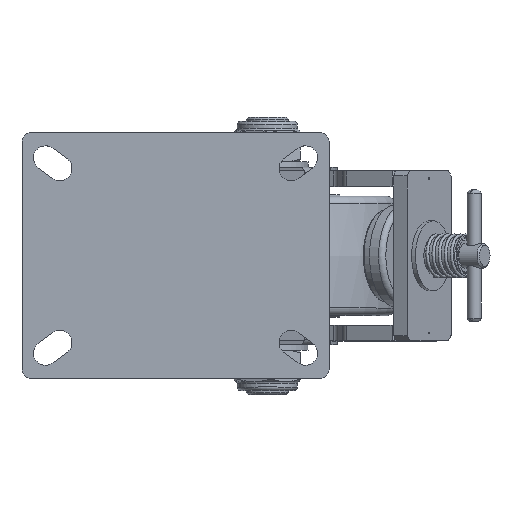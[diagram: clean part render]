
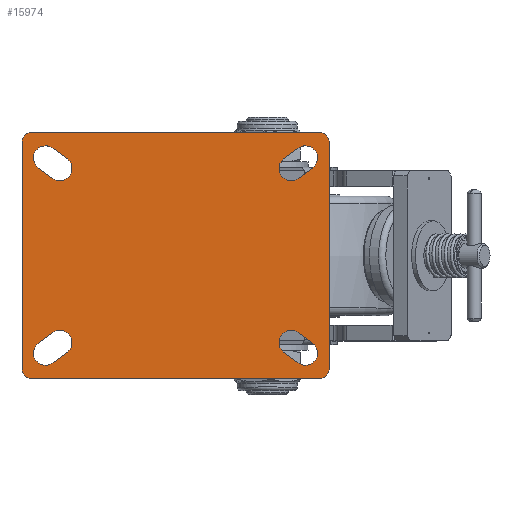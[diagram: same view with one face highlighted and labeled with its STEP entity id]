
A CAD part, top view. The second image highlights one B-rep face of the part: STEP entity #15974.
In plain terms, the highlighted planar face has unit normal (0, 0, 1).
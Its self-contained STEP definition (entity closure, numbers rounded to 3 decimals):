
#14935=CARTESIAN_POINT('',(-82.5,-70.,36.825));
#14936=VERTEX_POINT('',#14935);
#14937=CARTESIAN_POINT('',(-87.5,-65.,36.825));
#14938=VERTEX_POINT('',#14937);
#14939=CARTESIAN_POINT('',(-82.5,-65.,36.825));
#14940=DIRECTION('',(0.0,0.0,-1.));
#14941=DIRECTION('',(-0.707,-0.707,0.0));
#14942=AXIS2_PLACEMENT_3D('',#14939,#14940,#14941);
#14943=CIRCLE('',#14942,5.);
#14944=EDGE_CURVE('',#14936,#14938,#14943,.T.);
#15117=CARTESIAN_POINT('',(-87.5,65.,36.825));
#15118=VERTEX_POINT('',#15117);
#15119=CARTESIAN_POINT('',(-87.5,-65.,36.825));
#15120=DIRECTION('',(0.0,1.0,0.0));
#15121=VECTOR('',#15120,130.0);
#15122=LINE('',#15119,#15121);
#15123=EDGE_CURVE('',#14938,#15118,#15122,.T.);
#15140=CARTESIAN_POINT('',(-82.5,70.,36.825));
#15141=VERTEX_POINT('',#15140);
#15142=CARTESIAN_POINT('',(-82.5,65.,36.825));
#15143=DIRECTION('',(0.0,0.0,-1.));
#15144=DIRECTION('',(-0.707,0.707,0.0));
#15145=AXIS2_PLACEMENT_3D('',#15142,#15143,#15144);
#15146=CIRCLE('',#15145,5.);
#15147=EDGE_CURVE('',#15118,#15141,#15146,.T.);
#15165=CARTESIAN_POINT('',(82.5,70.,36.825));
#15166=VERTEX_POINT('',#15165);
#15167=CARTESIAN_POINT('',(87.5,65.,36.825));
#15168=VERTEX_POINT('',#15167);
#15169=CARTESIAN_POINT('',(82.5,65.,36.825));
#15170=DIRECTION('',(0.0,0.0,-1.));
#15171=DIRECTION('',(0.707,0.707,0.0));
#15172=AXIS2_PLACEMENT_3D('',#15169,#15170,#15171);
#15173=CIRCLE('',#15172,5.);
#15174=EDGE_CURVE('',#15166,#15168,#15173,.T.);
#15355=CARTESIAN_POINT('',(87.5,-65.,36.825));
#15356=VERTEX_POINT('',#15355);
#15357=CARTESIAN_POINT('',(87.5,65.,36.825));
#15358=DIRECTION('',(0.0,-1.0,0.0));
#15359=VECTOR('',#15358,130.);
#15360=LINE('',#15357,#15359);
#15361=EDGE_CURVE('',#15168,#15356,#15360,.T.);
#15378=CARTESIAN_POINT('',(82.5,-70.,36.825));
#15379=VERTEX_POINT('',#15378);
#15380=CARTESIAN_POINT('',(82.5,-65.,36.825));
#15381=DIRECTION('',(0.0,0.0,-1.));
#15382=DIRECTION('',(0.707,-0.707,0.0));
#15383=AXIS2_PLACEMENT_3D('',#15380,#15381,#15382);
#15384=CIRCLE('',#15383,5.);
#15385=EDGE_CURVE('',#15356,#15379,#15384,.T.);
#15513=CARTESIAN_POINT('',(-82.5,70.,36.825));
#15514=DIRECTION('',(1.0,0.0,0.0));
#15515=VECTOR('',#15514,165.0);
#15516=LINE('',#15513,#15515);
#15517=EDGE_CURVE('',#15141,#15166,#15516,.T.);
#15534=CARTESIAN_POINT('',(82.5,-70.,36.825));
#15535=DIRECTION('',(-1.0,0.0,0.0));
#15536=VECTOR('',#15535,165.);
#15537=LINE('',#15534,#15536);
#15538=EDGE_CURVE('',#15379,#14936,#15537,.T.);
#15548=CARTESIAN_POINT('',(-70.2,43.9,36.825));
#15549=VERTEX_POINT('',#15548);
#15550=CARTESIAN_POINT('',(-61.8,55.1,36.825));
#15551=VERTEX_POINT('',#15550);
#15552=CARTESIAN_POINT('',(-66.,49.5,36.825));
#15553=DIRECTION('',(0.0,0.0,1.0));
#15554=DIRECTION('',(1.0,0.0,0.0));
#15555=AXIS2_PLACEMENT_3D('',#15552,#15553,#15554);
#15556=CIRCLE('',#15555,7.);
#15557=EDGE_CURVE('',#15549,#15551,#15556,.T.);
#15580=CARTESIAN_POINT('',(-69.8,61.1,36.825));
#15581=VERTEX_POINT('',#15580);
#15582=CARTESIAN_POINT('',(-61.8,55.1,36.825));
#15583=DIRECTION('',(-0.8,0.6,0.0));
#15584=VECTOR('',#15583,10.);
#15585=LINE('',#15582,#15584);
#15586=EDGE_CURVE('',#15551,#15581,#15585,.T.);
#15604=CARTESIAN_POINT('',(-78.2,49.9,36.825));
#15605=VERTEX_POINT('',#15604);
#15606=CARTESIAN_POINT('',(-74.,55.5,36.825));
#15607=DIRECTION('',(0.0,0.0,1.0));
#15608=DIRECTION('',(1.0,0.0,0.0));
#15609=AXIS2_PLACEMENT_3D('',#15606,#15607,#15608);
#15610=CIRCLE('',#15609,7.);
#15611=EDGE_CURVE('',#15581,#15605,#15610,.T.);
#15629=CARTESIAN_POINT('',(-78.2,49.9,36.825));
#15630=DIRECTION('',(0.8,-0.6,0.0));
#15631=VECTOR('',#15630,10.);
#15632=LINE('',#15629,#15631);
#15633=EDGE_CURVE('',#15605,#15549,#15632,.T.);
#15646=CARTESIAN_POINT('',(-78.2,-49.9,36.825));
#15647=VERTEX_POINT('',#15646);
#15648=CARTESIAN_POINT('',(-69.8,-61.1,36.825));
#15649=VERTEX_POINT('',#15648);
#15650=CARTESIAN_POINT('',(-74.,-55.5,36.825));
#15651=DIRECTION('',(0.0,0.0,1.0));
#15652=DIRECTION('',(1.0,0.0,0.0));
#15653=AXIS2_PLACEMENT_3D('',#15650,#15651,#15652);
#15654=CIRCLE('',#15653,7.);
#15655=EDGE_CURVE('',#15647,#15649,#15654,.T.);
#15678=CARTESIAN_POINT('',(-61.8,-55.1,36.825));
#15679=VERTEX_POINT('',#15678);
#15680=CARTESIAN_POINT('',(-69.8,-61.1,36.825));
#15681=DIRECTION('',(0.8,0.6,0.0));
#15682=VECTOR('',#15681,10.0);
#15683=LINE('',#15680,#15682);
#15684=EDGE_CURVE('',#15649,#15679,#15683,.T.);
#15702=CARTESIAN_POINT('',(-70.2,-43.9,36.825));
#15703=VERTEX_POINT('',#15702);
#15704=CARTESIAN_POINT('',(-66.,-49.5,36.825));
#15705=DIRECTION('',(0.0,0.0,1.0));
#15706=DIRECTION('',(1.0,0.0,0.0));
#15707=AXIS2_PLACEMENT_3D('',#15704,#15705,#15706);
#15708=CIRCLE('',#15707,7.);
#15709=EDGE_CURVE('',#15679,#15703,#15708,.T.);
#15727=CARTESIAN_POINT('',(-70.2,-43.9,36.825));
#15728=DIRECTION('',(-0.8,-0.6,0.0));
#15729=VECTOR('',#15728,10.);
#15730=LINE('',#15727,#15729);
#15731=EDGE_CURVE('',#15703,#15647,#15730,.T.);
#15744=CARTESIAN_POINT('',(70.2,-43.9,36.825));
#15745=VERTEX_POINT('',#15744);
#15746=CARTESIAN_POINT('',(61.8,-55.1,36.825));
#15747=VERTEX_POINT('',#15746);
#15748=CARTESIAN_POINT('',(66.,-49.5,36.825));
#15749=DIRECTION('',(0.0,0.0,1.0));
#15750=DIRECTION('',(1.0,0.0,0.0));
#15751=AXIS2_PLACEMENT_3D('',#15748,#15749,#15750);
#15752=CIRCLE('',#15751,7.);
#15753=EDGE_CURVE('',#15745,#15747,#15752,.T.);
#15776=CARTESIAN_POINT('',(69.8,-61.1,36.825));
#15777=VERTEX_POINT('',#15776);
#15778=CARTESIAN_POINT('',(61.8,-55.1,36.825));
#15779=DIRECTION('',(0.8,-0.6,0.0));
#15780=VECTOR('',#15779,10.0);
#15781=LINE('',#15778,#15780);
#15782=EDGE_CURVE('',#15747,#15777,#15781,.T.);
#15800=CARTESIAN_POINT('',(78.2,-49.9,36.825));
#15801=VERTEX_POINT('',#15800);
#15802=CARTESIAN_POINT('',(74.,-55.5,36.825));
#15803=DIRECTION('',(0.0,0.0,1.0));
#15804=DIRECTION('',(1.0,0.0,0.0));
#15805=AXIS2_PLACEMENT_3D('',#15802,#15803,#15804);
#15806=CIRCLE('',#15805,7.);
#15807=EDGE_CURVE('',#15777,#15801,#15806,.T.);
#15825=CARTESIAN_POINT('',(78.2,-49.9,36.825));
#15826=DIRECTION('',(-0.8,0.6,0.0));
#15827=VECTOR('',#15826,10.);
#15828=LINE('',#15825,#15827);
#15829=EDGE_CURVE('',#15801,#15745,#15828,.T.);
#15842=CARTESIAN_POINT('',(78.2,49.9,36.825));
#15843=VERTEX_POINT('',#15842);
#15844=CARTESIAN_POINT('',(69.8,61.1,36.825));
#15845=VERTEX_POINT('',#15844);
#15846=CARTESIAN_POINT('',(74.,55.5,36.825));
#15847=DIRECTION('',(0.0,0.0,1.0));
#15848=DIRECTION('',(1.0,0.0,0.0));
#15849=AXIS2_PLACEMENT_3D('',#15846,#15847,#15848);
#15850=CIRCLE('',#15849,7.);
#15851=EDGE_CURVE('',#15843,#15845,#15850,.T.);
#15874=CARTESIAN_POINT('',(61.8,55.1,36.825));
#15875=VERTEX_POINT('',#15874);
#15876=CARTESIAN_POINT('',(69.8,61.1,36.825));
#15877=DIRECTION('',(-0.8,-0.6,0.0));
#15878=VECTOR('',#15877,10.);
#15879=LINE('',#15876,#15878);
#15880=EDGE_CURVE('',#15845,#15875,#15879,.T.);
#15898=CARTESIAN_POINT('',(70.2,43.9,36.825));
#15899=VERTEX_POINT('',#15898);
#15900=CARTESIAN_POINT('',(66.,49.5,36.825));
#15901=DIRECTION('',(0.0,0.0,1.0));
#15902=DIRECTION('',(1.0,0.0,0.0));
#15903=AXIS2_PLACEMENT_3D('',#15900,#15901,#15902);
#15904=CIRCLE('',#15903,7.);
#15905=EDGE_CURVE('',#15875,#15899,#15904,.T.);
#15923=CARTESIAN_POINT('',(70.2,43.9,36.825));
#15924=DIRECTION('',(0.8,0.6,0.0));
#15925=VECTOR('',#15924,10.);
#15926=LINE('',#15923,#15925);
#15927=EDGE_CURVE('',#15899,#15843,#15926,.T.);
#15935=CARTESIAN_POINT('',(-70.2,43.9,36.825));
#15936=DIRECTION('',(0.0,0.0,1.0));
#15937=DIRECTION('',(1.0,0.0,0.0));
#15938=AXIS2_PLACEMENT_3D('',#15935,#15936,#15937);
#15939=PLANE('',#15938);
#15940=ORIENTED_EDGE('',*,*,#14944,.F.);
#15941=ORIENTED_EDGE('',*,*,#15538,.F.);
#15942=ORIENTED_EDGE('',*,*,#15385,.F.);
#15943=ORIENTED_EDGE('',*,*,#15361,.F.);
#15944=ORIENTED_EDGE('',*,*,#15174,.F.);
#15945=ORIENTED_EDGE('',*,*,#15517,.F.);
#15946=ORIENTED_EDGE('',*,*,#15147,.F.);
#15947=ORIENTED_EDGE('',*,*,#15123,.F.);
#15948=EDGE_LOOP('',(#15940,#15941,#15942,#15943,#15944,#15945,#15946,#15947));
#15949=FACE_OUTER_BOUND('',#15948,.T.);
#15950=ORIENTED_EDGE('',*,*,#15851,.F.);
#15951=ORIENTED_EDGE('',*,*,#15927,.F.);
#15952=ORIENTED_EDGE('',*,*,#15905,.F.);
#15953=ORIENTED_EDGE('',*,*,#15880,.F.);
#15954=EDGE_LOOP('',(#15950,#15951,#15952,#15953));
#15955=FACE_BOUND('',#15954,.T.);
#15956=ORIENTED_EDGE('',*,*,#15753,.F.);
#15957=ORIENTED_EDGE('',*,*,#15829,.F.);
#15958=ORIENTED_EDGE('',*,*,#15807,.F.);
#15959=ORIENTED_EDGE('',*,*,#15782,.F.);
#15960=EDGE_LOOP('',(#15956,#15957,#15958,#15959));
#15961=FACE_BOUND('',#15960,.T.);
#15962=ORIENTED_EDGE('',*,*,#15655,.F.);
#15963=ORIENTED_EDGE('',*,*,#15731,.F.);
#15964=ORIENTED_EDGE('',*,*,#15709,.F.);
#15965=ORIENTED_EDGE('',*,*,#15684,.F.);
#15966=EDGE_LOOP('',(#15962,#15963,#15964,#15965));
#15967=FACE_BOUND('',#15966,.T.);
#15968=ORIENTED_EDGE('',*,*,#15557,.F.);
#15969=ORIENTED_EDGE('',*,*,#15633,.F.);
#15970=ORIENTED_EDGE('',*,*,#15611,.F.);
#15971=ORIENTED_EDGE('',*,*,#15586,.F.);
#15972=EDGE_LOOP('',(#15968,#15969,#15970,#15971));
#15973=FACE_BOUND('',#15972,.T.);
#15974=ADVANCED_FACE('',(#15949,#15955,#15961,#15967,#15973),#15939,.T.);
